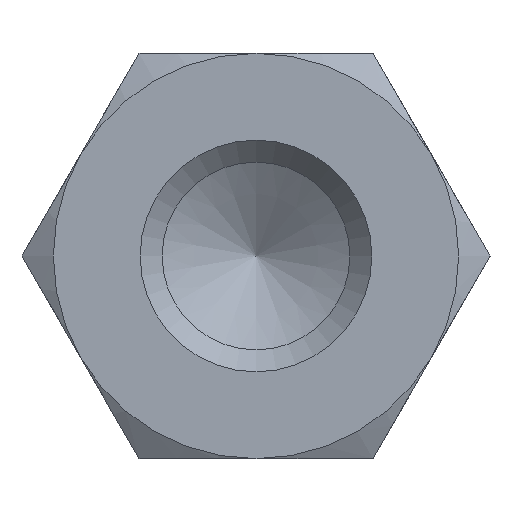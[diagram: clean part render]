
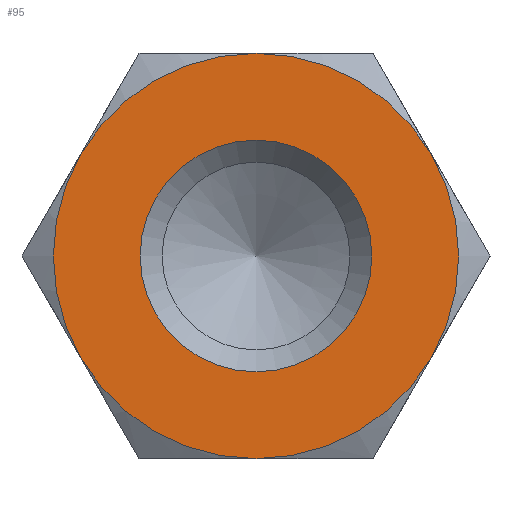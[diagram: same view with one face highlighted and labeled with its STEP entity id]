
A CAD part, left-side view. The second image highlights one B-rep face of the part: STEP entity #95.
In plain terms, the highlighted planar face has unit normal (-1, 0, 0).
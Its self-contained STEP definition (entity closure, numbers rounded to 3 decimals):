
#95 = ADVANCED_FACE( '', ( #147, #148 ), #149, .F. );
#147 = FACE_OUTER_BOUND( '', #206, .T. );
#148 = FACE_BOUND( '', #207, .T. );
#149 = PLANE( '', #208 );
#206 = EDGE_LOOP( '', ( #356, #357, #358, #359, #360, #361 ) );
#207 = EDGE_LOOP( '', ( #362 ) );
#208 = AXIS2_PLACEMENT_3D( '', #363, #364, #365 );
#356 = ORIENTED_EDGE( '', *, *, #440, .F. );
#357 = ORIENTED_EDGE( '', *, *, #425, .F. );
#358 = ORIENTED_EDGE( '', *, *, #441, .F. );
#359 = ORIENTED_EDGE( '', *, *, #437, .F. );
#360 = ORIENTED_EDGE( '', *, *, #442, .F. );
#361 = ORIENTED_EDGE( '', *, *, #443, .F. );
#362 = ORIENTED_EDGE( '', *, *, #439, .T. );
#363 = CARTESIAN_POINT( '', ( -80., 0., 0. ) );
#364 = DIRECTION( '', ( 1., 0., 0. ) );
#365 = DIRECTION( '', ( 0., 0., -1. ) );
#425 = EDGE_CURVE( '', #495, #493, #497, .T. );
#437 = EDGE_CURVE( '', #447, #506, #513, .T. );
#439 = EDGE_CURVE( '', #516, #516, #517, .T. );
#440 = EDGE_CURVE( '', #493, #486, #518, .T. );
#441 = EDGE_CURVE( '', #506, #495, #519, .T. );
#442 = EDGE_CURVE( '', #481, #447, #520, .T. );
#443 = EDGE_CURVE( '', #486, #481, #521, .T. );
#447 = VERTEX_POINT( '', #525 );
#481 = VERTEX_POINT( '', #595 );
#486 = VERTEX_POINT( '', #611 );
#493 = VERTEX_POINT( '', #632 );
#495 = VERTEX_POINT( '', #637 );
#497 = CIRCLE( '', #644, 3.5 );
#506 = VERTEX_POINT( '', #670 );
#513 = CIRCLE( '', #701, 3.5 );
#516 = VERTEX_POINT( '', #704 );
#517 = CIRCLE( '', #705, 2. );
#518 = CIRCLE( '', #706, 3.5 );
#519 = CIRCLE( '', #707, 3.5 );
#520 = CIRCLE( '', #708, 3.5 );
#521 = CIRCLE( '', #709, 3.5 );
#525 = CARTESIAN_POINT( '', ( -80., -3.031, 1.75 ) );
#595 = CARTESIAN_POINT( '', ( -80., 0., 3.5 ) );
#611 = CARTESIAN_POINT( '', ( -80., 3.031, 1.75 ) );
#632 = CARTESIAN_POINT( '', ( -80., 3.031, -1.75 ) );
#637 = CARTESIAN_POINT( '', ( -80., 0., -3.5 ) );
#644 = AXIS2_PLACEMENT_3D( '', #744, #745, #746 );
#670 = CARTESIAN_POINT( '', ( -80., -3.031, -1.75 ) );
#701 = AXIS2_PLACEMENT_3D( '', #749, #750, #751 );
#704 = CARTESIAN_POINT( '', ( -80., 0., -2. ) );
#705 = AXIS2_PLACEMENT_3D( '', #755, #756, #757 );
#706 = AXIS2_PLACEMENT_3D( '', #758, #759, #760 );
#707 = AXIS2_PLACEMENT_3D( '', #761, #762, #763 );
#708 = AXIS2_PLACEMENT_3D( '', #764, #765, #766 );
#709 = AXIS2_PLACEMENT_3D( '', #767, #768, #769 );
#744 = CARTESIAN_POINT( '', ( -80., 0., 0. ) );
#745 = DIRECTION( '', ( 1., 0., 0. ) );
#746 = DIRECTION( '', ( 0., 0., -1. ) );
#749 = CARTESIAN_POINT( '', ( -80., 0., 0. ) );
#750 = DIRECTION( '', ( 1., 0., 0. ) );
#751 = DIRECTION( '', ( 0., 0., -1. ) );
#755 = CARTESIAN_POINT( '', ( -80., 0., 0. ) );
#756 = DIRECTION( '', ( 1., 0., 0. ) );
#757 = DIRECTION( '', ( 0., 0., -1. ) );
#758 = CARTESIAN_POINT( '', ( -80., 0., 0. ) );
#759 = DIRECTION( '', ( 1., 0., 0. ) );
#760 = DIRECTION( '', ( 0., 0., -1. ) );
#761 = CARTESIAN_POINT( '', ( -80., 0., 0. ) );
#762 = DIRECTION( '', ( 1., 0., 0. ) );
#763 = DIRECTION( '', ( 0., 0., -1. ) );
#764 = CARTESIAN_POINT( '', ( -80., 0., 0. ) );
#765 = DIRECTION( '', ( 1., 0., 0. ) );
#766 = DIRECTION( '', ( 0., 0., -1. ) );
#767 = CARTESIAN_POINT( '', ( -80., 0., 0. ) );
#768 = DIRECTION( '', ( 1., 0., 0. ) );
#769 = DIRECTION( '', ( 0., 0., -1. ) );
